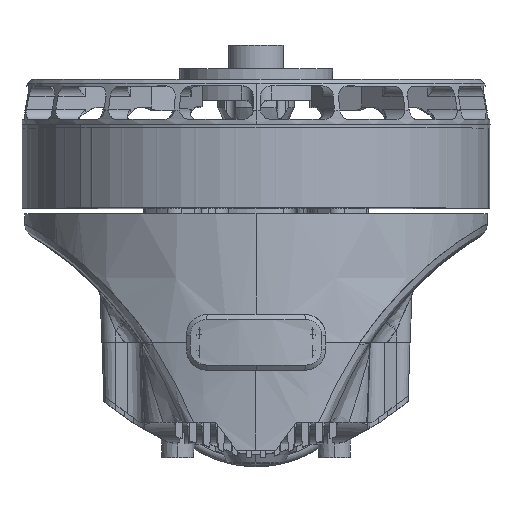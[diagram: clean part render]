
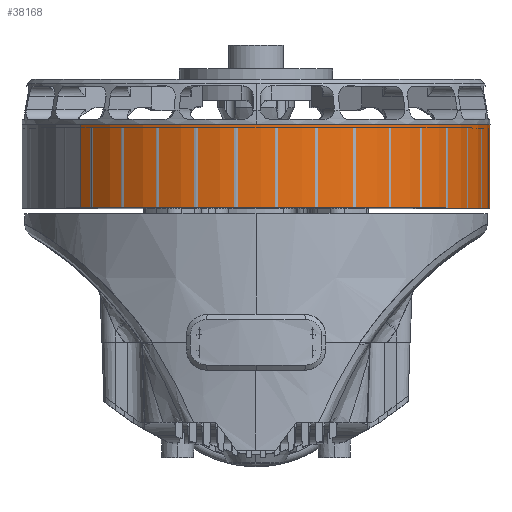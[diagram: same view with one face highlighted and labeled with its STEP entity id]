
A CAD part, top view. The second image highlights one B-rep face of the part: STEP entity #38168.
In plain terms, the highlighted cylindrical face has radius 33.6 mm (diameter 67.2 mm), a partial arc.
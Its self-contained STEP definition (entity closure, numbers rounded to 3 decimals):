
#4737 = ORIENTED_EDGE ( 'NONE', *, *, #114207, .F. ) ;
#7270 = CARTESIAN_POINT ( 'NONE',  ( -18.141, 45.043, 35.103 ) ) ;
#9165 = AXIS2_PLACEMENT_3D ( 'NONE', #112690, #143248, #98921 ) ;
#15625 = CIRCLE ( 'NONE', #34504, 33.6 ) ;
#21617 = DIRECTION ( 'NONE',  ( 0.752, 0., -0.66 ) ) ;
#22991 = VERTEX_POINT ( 'NONE', #168399 ) ;
#30440 = DIRECTION ( 'NONE',  ( 0.752, 0., -0.66 ) ) ;
#33048 = ORIENTED_EDGE ( 'NONE', *, *, #111403, .T. ) ;
#34504 = AXIS2_PLACEMENT_3D ( 'NONE', #44258, #116251, #30440 ) ;
#38168 = ADVANCED_FACE ( 'NONE', ( #171371 ), #94584, .T. ) ;
#44258 = CARTESIAN_POINT ( 'NONE',  ( 7.115, 33.043, 12.942 ) ) ;
#50003 = ORIENTED_EDGE ( 'NONE', *, *, #151507, .F. ) ;
#51859 = VERTEX_POINT ( 'NONE', #186934 ) ;
#58122 = AXIS2_PLACEMENT_3D ( 'NONE', #154652, #79822, #21617 ) ;
#69050 = DIRECTION ( 'NONE',  ( 0., 1., 0. ) ) ;
#70018 = CARTESIAN_POINT ( 'NONE',  ( 32.372, 54.293, -9.218 ) ) ;
#79822 = DIRECTION ( 'NONE',  ( 0., 1., 0. ) ) ;
#81633 = CIRCLE ( 'NONE', #9165, 33.6 ) ;
#88458 = DIRECTION ( 'NONE',  ( 0., 1., 0. ) ) ;
#93545 = VERTEX_POINT ( 'NONE', #7270 ) ;
#94584 = CYLINDRICAL_SURFACE ( 'NONE', #58122, 33.6 ) ;
#98096 = ORIENTED_EDGE ( 'NONE', *, *, #192280, .T. ) ;
#98921 = DIRECTION ( 'NONE',  ( 0.752, 0., -0.66 ) ) ;
#109768 = LINE ( 'NONE', #118958, #123071 ) ;
#111403 = EDGE_CURVE ( 'NONE', #51859, #129647, #15625, .T. ) ;
#112690 = CARTESIAN_POINT ( 'NONE',  ( 7.115, 45.043, 12.942 ) ) ;
#114207 = EDGE_CURVE ( 'NONE', #51859, #93545, #109768, .T. ) ;
#114338 = LINE ( 'NONE', #70018, #171791 ) ;
#114845 = EDGE_LOOP ( 'NONE', ( #4737, #33048, #98096, #50003 ) ) ;
#116251 = DIRECTION ( 'NONE',  ( 0., 1., 0. ) ) ;
#118958 = CARTESIAN_POINT ( 'NONE',  ( -18.141, 54.293, 35.103 ) ) ;
#123071 = VECTOR ( 'NONE', #88458, 1000. ) ;
#129647 = VERTEX_POINT ( 'NONE', #161885 ) ;
#143248 = DIRECTION ( 'NONE',  ( 0., 1., 0. ) ) ;
#151507 = EDGE_CURVE ( 'NONE', #93545, #22991, #81633, .T. ) ;
#154652 = CARTESIAN_POINT ( 'NONE',  ( 7.115, 54.293, 12.942 ) ) ;
#161885 = CARTESIAN_POINT ( 'NONE',  ( 32.372, 33.043, -9.218 ) ) ;
#168399 = CARTESIAN_POINT ( 'NONE',  ( 32.372, 45.043, -9.218 ) ) ;
#171371 = FACE_OUTER_BOUND ( 'NONE', #114845, .T. ) ;
#171791 = VECTOR ( 'NONE', #69050, 1000. ) ;
#186934 = CARTESIAN_POINT ( 'NONE',  ( -18.141, 33.043, 35.103 ) ) ;
#192280 = EDGE_CURVE ( 'NONE', #129647, #22991, #114338, .T. ) ;
